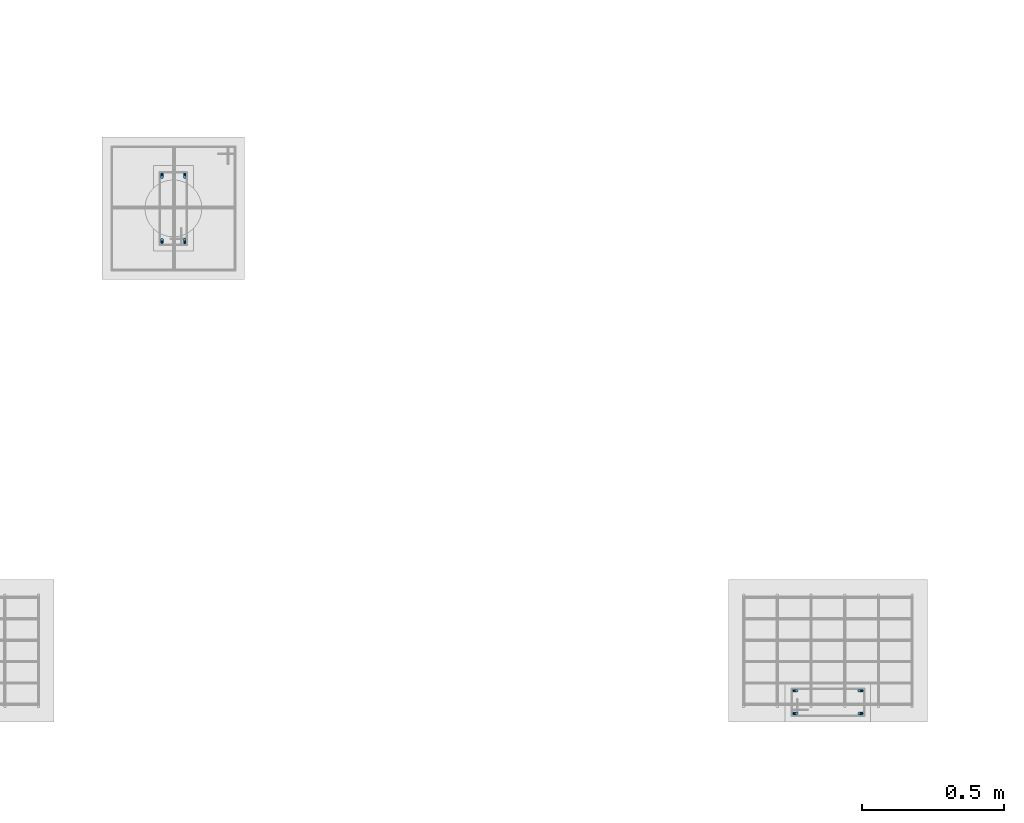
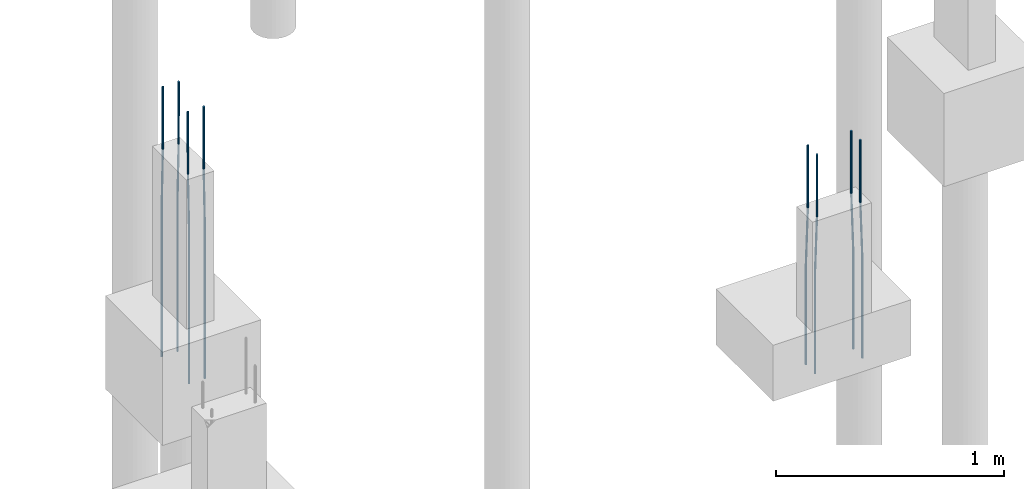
# One storey, part 16 of 119: 8 reinforcing bars.
"""IFC4 building model written with IfcOpenShell, lengths in centimetres."""

from ifc_helpers import new_model, entity, si_unit, derived_unit, frame, origin_with_axes, place, context, project, spatial, element, save


model = new_model("IFC4")

# Units and contexts
model_context = context("Model", 3, precision=1e-05, world=origin_with_axes(), identifier="Body")
ifc_project = project(units=[si_unit("LENGTHUNIT", "METRE", prefix="CENTI"), si_unit("VOLUMEUNIT", "CUBIC_METRE"), si_unit("AREAUNIT", "SQUARE_METRE"), si_unit("POWERUNIT", "WATT"), si_unit("LUMINOUSFLUXUNIT", "LUMEN"), si_unit("ELECTRICCURRENTUNIT", "AMPERE"), si_unit("PRESSUREUNIT", "PASCAL", prefix="KILO"), si_unit("MASSUNIT", "GRAM", prefix="KILO"), si_unit("PLANEANGLEUNIT", "RADIAN"), derived_unit("VOLUMETRICFLOWRATEUNIT", [(si_unit("LENGTHUNIT", "METRE"), 3), (si_unit("TIMEUNIT", "SECOND"), -1)])], contexts=[model_context])

# Site, building, storey
site_placement = place(None, frame((-4000.0, 0.0, 0.0), z_axis=(0.0, 0.0, 1.0), x_axis=(1.0, 0.0, 0.0)))
site = spatial("IfcSite", under=ifc_project, at=site_placement, Name="PADRÃO")
building_placement = place(site_placement, frame((0.0, 0.0, -14.0)))
building = spatial("IfcBuilding", under=site, at=building_placement, Name="CRECHE PRÉ-ESCOLA TIPO 2")
storey_placement = place(building_placement, origin_with_axes())
storey = spatial("IfcBuildingStorey", under=building, at=storey_placement, Name="FUNDAÇÃO", CompositionType="ELEMENT", Elevation=-14.0)

# Reinforcing bars
reinforcing_bar_1_placement = place(storey_placement, frame((2841.49, 171.0, 33.3573001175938), z_axis=(0.0, 0.0, 1.0), x_axis=(1.0, 0.0, 0.0)))
element("IfcReinforcingBar", 1, at=reinforcing_bar_1_placement, inside=storey, Name="P153 - Longitudinal", BarLength=0.0, CrossSectionArea=7.853981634e-05, NominalDiameter=1.0, PredefinedType="MAIN", context=model_context, shape_type="AdvancedSweptSolid", body=[
    entity("IfcSweptDiskSolid", entity("IfcCompositeCurve", [entity("IfcCompositeCurveSegment", "CONTINUOUS", True, entity("IfcPolyline", [entity("IfcCartesianPoint", [0.0, -0.5, -145.357300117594]), entity("IfcCartesianPoint", [0.0, -0.5, -63.3573001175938])])), entity("IfcCompositeCurveSegment", "CONTINUOUS", True, entity("IfcPolyline", [entity("IfcCartesianPoint", [0.0, -0.5, -63.3573001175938]), entity("IfcCartesianPoint", [0.0, 0.5, -33.3573001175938])])), entity("IfcCompositeCurveSegment", "CONTINUOUS", True, entity("IfcPolyline", [entity("IfcCartesianPoint", [0.0, 0.5, -33.3573001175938]), entity("IfcCartesianPoint", [0.0, 0.5, 0.0])]))], False), 0.5),
])
for number, where, z_axis, x_axis, name in (
    (2, (2833.49, 194.0, 33.3573001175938), (0.0, 0.0, 1.0), (1.0, 0.0, 0.0), "P153 - Longitudinal"),
    (3, (2841.49, 194.0, 33.3573001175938), (0.0, 0.0, 1.0), (1.0, 0.0, 0.0), "P153 - Longitudinal"),
):
    element("IfcReinforcingBar", number, at=place(storey_placement, frame(where, z_axis=z_axis, x_axis=x_axis)), inside=storey, Name=name, BarLength=0.0, CrossSectionArea=7.853981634e-05, NominalDiameter=1.0, PredefinedType="MAIN", context=model_context, shape_type="AdvancedSweptSolid", body=[
        entity("IfcSweptDiskSolid", entity("IfcCompositeCurve", [entity("IfcCompositeCurveSegment", "CONTINUOUS", True, entity("IfcPolyline", [entity("IfcCartesianPoint", [0.0, 0.5, -145.357300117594]), entity("IfcCartesianPoint", [0.0, 0.5, -63.3573001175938])])), entity("IfcCompositeCurveSegment", "CONTINUOUS", True, entity("IfcPolyline", [entity("IfcCartesianPoint", [0.0, 0.5, -63.3573001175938]), entity("IfcCartesianPoint", [0.0, -0.5, -33.3573001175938])])), entity("IfcCompositeCurveSegment", "CONTINUOUS", True, entity("IfcPolyline", [entity("IfcCartesianPoint", [0.0, -0.5, -33.3573001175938]), entity("IfcCartesianPoint", [0.0, -0.5, 0.0])]))], False), 0.5),
    ])
reinforcing_bar_2_placement = place(storey_placement, frame((2833.49, 171.0, 33.3573001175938), z_axis=(0.0, 0.0, 1.0), x_axis=(1.0, 0.0, 0.0)))
element("IfcReinforcingBar", 4, at=reinforcing_bar_2_placement, inside=storey, Name="P153 - Longitudinal", BarLength=0.0, CrossSectionArea=7.853981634e-05, NominalDiameter=1.0, PredefinedType="MAIN", context=model_context, shape_type="AdvancedSweptSolid", body=[
    entity("IfcSweptDiskSolid", entity("IfcCompositeCurve", [entity("IfcCompositeCurveSegment", "CONTINUOUS", True, entity("IfcPolyline", [entity("IfcCartesianPoint", [0.0, -0.5, -145.357300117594]), entity("IfcCartesianPoint", [0.0, -0.5, -63.3573001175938])])), entity("IfcCompositeCurveSegment", "CONTINUOUS", True, entity("IfcPolyline", [entity("IfcCartesianPoint", [0.0, -0.5, -63.3573001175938]), entity("IfcCartesianPoint", [0.0, 0.5, -33.3573001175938])])), entity("IfcCompositeCurveSegment", "CONTINUOUS", True, entity("IfcPolyline", [entity("IfcCartesianPoint", [0.0, 0.5, -33.3573001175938]), entity("IfcCartesianPoint", [0.0, 0.5, 0.0])]))], False), 0.5),
])
for number, where, z_axis, x_axis, name in (
    (5, (3079.0, 5.0, 33.3573001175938), (0.0, 0.0, 1.0), (1.0, 0.0, 0.0), "P165 - Longitudinal"),
    (6, (3079.0, 13.0, 33.3573001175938), (0.0, 0.0, 1.0), (1.0, 0.0, 0.0), "P165 - Longitudinal"),
):
    element("IfcReinforcingBar", number, at=place(storey_placement, frame(where, z_axis=z_axis, x_axis=x_axis)), inside=storey, Name=name, BarLength=0.0, CrossSectionArea=7.853981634e-05, NominalDiameter=1.0, PredefinedType="MAIN", context=model_context, shape_type="AdvancedSweptSolid", body=[
        entity("IfcSweptDiskSolid", entity("IfcCompositeCurve", [entity("IfcCompositeCurveSegment", "CONTINUOUS", True, entity("IfcPolyline", [entity("IfcCartesianPoint", [0.5, 0.0, -117.357300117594]), entity("IfcCartesianPoint", [0.5, 0.0, -63.3573001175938])])), entity("IfcCompositeCurveSegment", "CONTINUOUS", True, entity("IfcPolyline", [entity("IfcCartesianPoint", [0.5, 0.0, -63.3573001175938]), entity("IfcCartesianPoint", [-0.5, 0.0, -33.3573001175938])])), entity("IfcCompositeCurveSegment", "CONTINUOUS", True, entity("IfcPolyline", [entity("IfcCartesianPoint", [-0.5, 0.0, -33.3573001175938]), entity("IfcCartesianPoint", [-0.5, 0.0, 0.0])]))], False), 0.5),
    ])
for number, where, z_axis, x_axis, name in (
    (7, (3056.0, 13.0, 33.3573001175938), (0.0, 0.0, 1.0), (1.0, 0.0, 0.0), "P165 - Longitudinal"),
    (8, (3056.0, 5.0, 33.3573001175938), (0.0, 0.0, 1.0), (1.0, 0.0, 0.0), "P165 - Longitudinal"),
):
    element("IfcReinforcingBar", number, at=place(storey_placement, frame(where, z_axis=z_axis, x_axis=x_axis)), inside=storey, Name=name, BarLength=0.0, CrossSectionArea=7.853981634e-05, NominalDiameter=1.0, PredefinedType="MAIN", context=model_context, shape_type="AdvancedSweptSolid", body=[
        entity("IfcSweptDiskSolid", entity("IfcCompositeCurve", [entity("IfcCompositeCurveSegment", "CONTINUOUS", True, entity("IfcPolyline", [entity("IfcCartesianPoint", [-0.5, 0.0, -117.357300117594]), entity("IfcCartesianPoint", [-0.5, 0.0, -63.3573001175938])])), entity("IfcCompositeCurveSegment", "CONTINUOUS", True, entity("IfcPolyline", [entity("IfcCartesianPoint", [-0.5, 0.0, -63.3573001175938]), entity("IfcCartesianPoint", [0.5, 0.0, -33.3573001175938])])), entity("IfcCompositeCurveSegment", "CONTINUOUS", True, entity("IfcPolyline", [entity("IfcCartesianPoint", [0.5, 0.0, -33.3573001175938]), entity("IfcCartesianPoint", [0.5, 0.0, 0.0])]))], False), 0.5),
    ])

save(model, "model.ifc")
